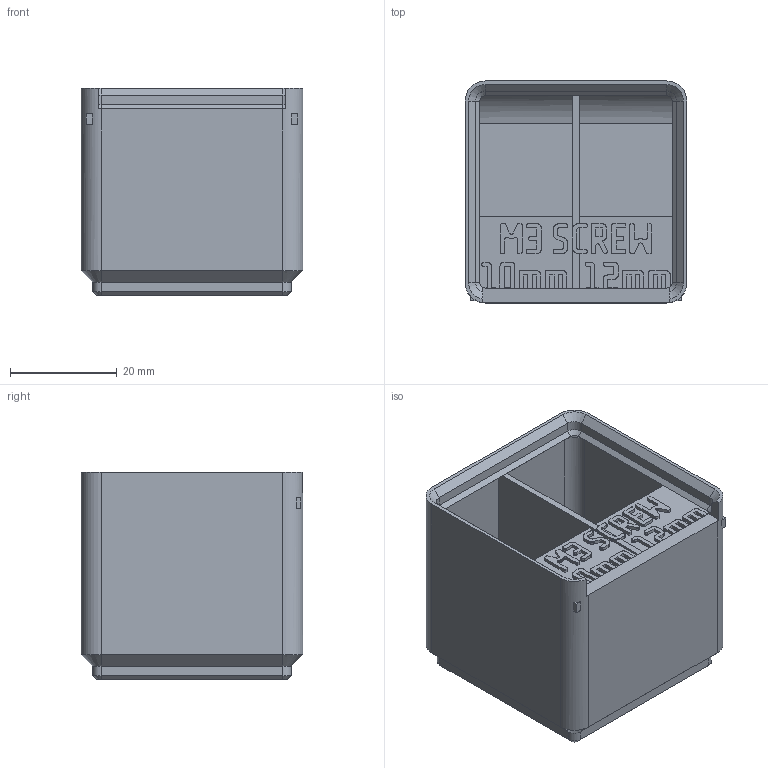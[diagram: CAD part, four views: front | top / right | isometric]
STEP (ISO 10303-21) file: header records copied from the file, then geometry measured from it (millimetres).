
FILE_DESCRIPTION(('Open CASCADE Model'),'2;1');
FILE_NAME('Open CASCADE Shape Model','2026-11-03T10:35:13',('Author'),( 'Open CASCADE'),'Open CASCADE STEP processor 8.0','build123d', 'Unknown');
FILE_SCHEMA(('AUTOMOTIVE_DESIGN { 1 0 10303 214 1 1 1 1 }'));
Products named in the file (1): COMPOUND
Bounding box: 41.5 x 41.5 x 38.9 mm (x, y, z)
Volume: 16980.8 mm3; surface area: 17573.3 mm2
Topology: 1 solids, 1 shells, 1606 faces, 4764 edges, 3160 vertices
Faces by surface type: plane 1568, cone 20, cylinder 18
Entity records: 111152 total; most frequent: CARTESIAN_POINT 23457, DIRECTION 13681, LINE 10287, VECTOR 10287, ORIENTED_EDGE 9528, PCURVE 9528, DEFINITIONAL_REPRESENTATION 9528, EDGE_CURVE 4764
